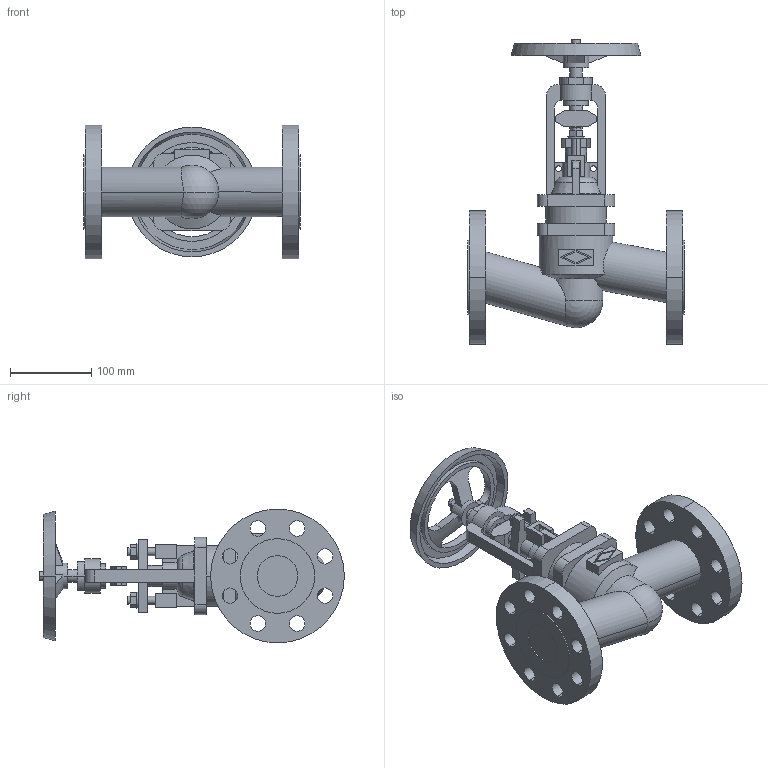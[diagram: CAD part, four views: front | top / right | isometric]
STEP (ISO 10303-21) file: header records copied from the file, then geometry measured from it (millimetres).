
FILE_DESCRIPTION(('OneSpaceDesigner STEP Export'),'2;1');
FILE_NAME('c000004215.stp','2010-04-30T 9:45:15',(''),(''),'OneSpace Designer STEP processor for AP214 (Solid Model)','OneSpace Modeling 15.50B 03-Nov-2007 (C) CoCreate Software GmbH','');
FILE_SCHEMA(('AUTOMOTIVE_DESIGN { 1 0 10303 214 1 1 1 1 }'));
Length unit declared in the file: millimetre
Products named in the file (1): 1
Bounding box: 267 x 375.9 x 165 mm (x, y, z)
Volume: 2512359.2 mm3; surface area: 300126.7 mm2
Topology: 1 solids, 1 shells, 305 faces, 805 edges, 528 vertices
Faces by surface type: plane 148, cylinder 123, cone 24, torus 8, sphere 2
Entity records: 11988 total; most frequent: CARTESIAN_POINT 2403, ORIENTED_EDGE 1606, DIRECTION 1307, EDGE_CURVE 803, VERTEX_POINT 528, VECTOR 439, LINE 439, AXIS2_PLACEMENT_3D 434
